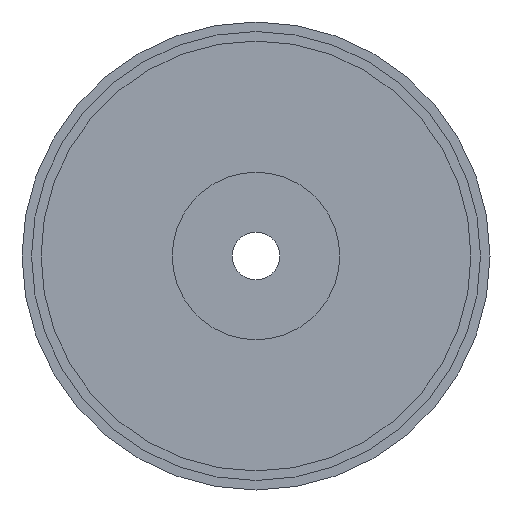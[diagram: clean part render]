
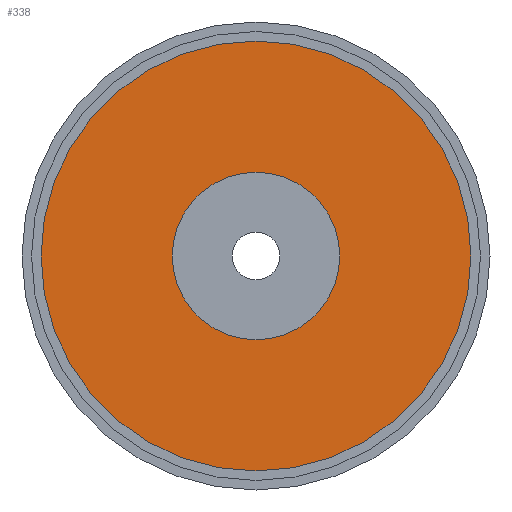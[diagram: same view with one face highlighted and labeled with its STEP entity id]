
A CAD part, front view. The second image highlights one B-rep face of the part: STEP entity #338.
In plain terms, the highlighted planar face has unit normal (0, -1, 0).
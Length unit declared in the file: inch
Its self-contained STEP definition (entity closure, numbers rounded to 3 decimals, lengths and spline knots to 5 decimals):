
#4 = DIRECTION ( 'NONE',  ( 0., 0., -1. ) ) ;
#19 = CARTESIAN_POINT ( 'NONE',  ( 0., -0.53, -0.88 ) ) ;
#49 = DIRECTION ( 'NONE',  ( 0., 1., 0. ) ) ;
#60 = ORIENTED_EDGE ( 'NONE', *, *, #98, .T. ) ;
#80 = CARTESIAN_POINT ( 'NONE',  ( 0., -0.53, 0. ) ) ;
#98 = EDGE_CURVE ( 'NONE', #494, #385, #176, .T. ) ;
#102 = VERTEX_POINT ( 'NONE', #19 ) ;
#104 = CARTESIAN_POINT ( 'NONE',  ( 0., -0.53, 0. ) ) ;
#158 = EDGE_LOOP ( 'NONE', ( #60, #457 ) ) ;
#162 = CIRCLE ( 'NONE', #345, 2.2575 ) ;
#170 = CARTESIAN_POINT ( 'NONE',  ( 0., -0.53, 0. ) ) ;
#173 = PLANE ( 'NONE',  #254 ) ;
#176 = CIRCLE ( 'NONE', #370, 2.2575 ) ;
#218 = VERTEX_POINT ( 'NONE', #450 ) ;
#220 = AXIS2_PLACEMENT_3D ( 'NONE', #80, #487, #530 ) ;
#229 = DIRECTION ( 'NONE',  ( 0., -1., 0. ) ) ;
#235 = EDGE_CURVE ( 'NONE', #385, #494, #162, .T. ) ;
#254 = AXIS2_PLACEMENT_3D ( 'NONE', #332, #386, #376 ) ;
#262 = CARTESIAN_POINT ( 'NONE',  ( 0., -0.53, -2.2575 ) ) ;
#267 = ORIENTED_EDGE ( 'NONE', *, *, #451, .T. ) ;
#277 = ORIENTED_EDGE ( 'NONE', *, *, #287, .T. ) ;
#287 = EDGE_CURVE ( 'NONE', #218, #102, #358, .T. ) ;
#321 = AXIS2_PLACEMENT_3D ( 'NONE', #372, #49, #369 ) ;
#332 = CARTESIAN_POINT ( 'NONE',  ( 0., -0.53, 2.4575 ) ) ;
#338 = ADVANCED_FACE ( 'NONE', ( #459, #441 ), #173, .T. ) ;
#345 = AXIS2_PLACEMENT_3D ( 'NONE', #170, #492, #4 ) ;
#358 = CIRCLE ( 'NONE', #321, 0.88 ) ;
#369 = DIRECTION ( 'NONE',  ( 0., 0., 1. ) ) ;
#370 = AXIS2_PLACEMENT_3D ( 'NONE', #104, #229, #507 ) ;
#371 = CARTESIAN_POINT ( 'NONE',  ( 0., -0.53, 2.2575 ) ) ;
#372 = CARTESIAN_POINT ( 'NONE',  ( 0., -0.53, 0. ) ) ;
#376 = DIRECTION ( 'NONE',  ( 0., 0., -1. ) ) ;
#385 = VERTEX_POINT ( 'NONE', #371 ) ;
#386 = DIRECTION ( 'NONE',  ( 0., -1., 0. ) ) ;
#441 = FACE_OUTER_BOUND ( 'NONE', #158, .T. ) ;
#448 = CIRCLE ( 'NONE', #220, 0.88 ) ;
#450 = CARTESIAN_POINT ( 'NONE',  ( 0., -0.53, 0.88 ) ) ;
#451 = EDGE_CURVE ( 'NONE', #102, #218, #448, .T. ) ;
#457 = ORIENTED_EDGE ( 'NONE', *, *, #235, .T. ) ;
#459 = FACE_BOUND ( 'NONE', #471, .T. ) ;
#471 = EDGE_LOOP ( 'NONE', ( #277, #267 ) ) ;
#487 = DIRECTION ( 'NONE',  ( 0., 1., 0. ) ) ;
#492 = DIRECTION ( 'NONE',  ( 0., -1., 0. ) ) ;
#494 = VERTEX_POINT ( 'NONE', #262 ) ;
#507 = DIRECTION ( 'NONE',  ( 0., 0., -1. ) ) ;
#530 = DIRECTION ( 'NONE',  ( 0., 0., 1. ) ) ;
